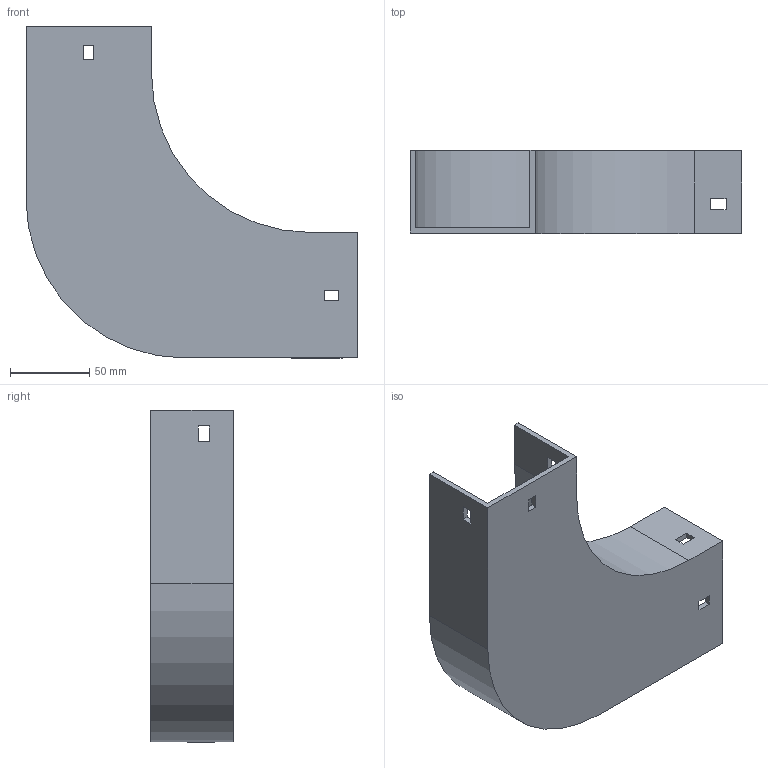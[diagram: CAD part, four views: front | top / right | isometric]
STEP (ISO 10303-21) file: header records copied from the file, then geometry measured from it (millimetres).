
FILE_DESCRIPTION (( 'STEP AP214' ), '1' );
FILE_NAME ('10F1B075.step', '2025-02-21T12:56:52', ( '' ), ( '' ), 'SwSTEP 2.0', 'SolidWorks 2023', '' );
FILE_SCHEMA (( 'AUTOMOTIVE_DESIGN' ));
Length unit declared in the file: millimetre
Products named in the file (1): 10F1B075
Bounding box: 209 x 52 x 209 mm (x, y, z)
Volume: 192863 mm3; surface area: 114205 mm2
Topology: 1 solids, 1 shells, 42 faces, 120 edges, 80 vertices
Faces by surface type: plane 38, cylinder 4
Entity records: 1399 total; most frequent: CARTESIAN_POINT 243, ORIENTED_EDGE 240, DIRECTION 214, EDGE_CURVE 120, LINE 112, VECTOR 112, VERTEX_POINT 80, EDGE_LOOP 54
